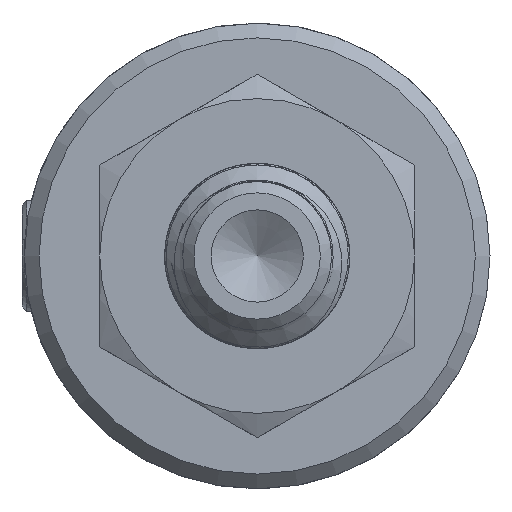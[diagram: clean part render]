
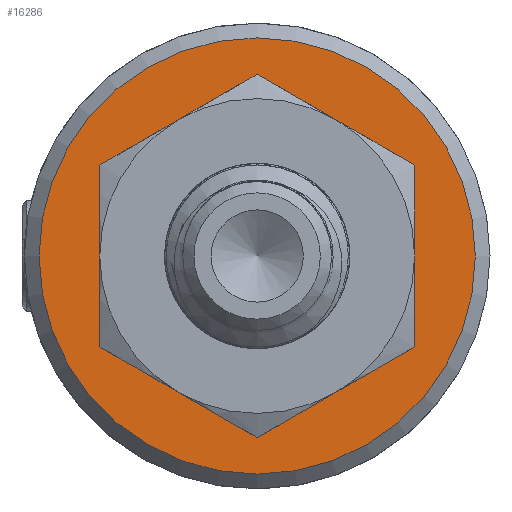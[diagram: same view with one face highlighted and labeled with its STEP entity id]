
A CAD part, left-side view. The second image highlights one B-rep face of the part: STEP entity #16286.
In plain terms, the highlighted planar face has unit normal (-1, 0, 0) as drawn and (0, 0, -1) by its records, which use the part's own axes.
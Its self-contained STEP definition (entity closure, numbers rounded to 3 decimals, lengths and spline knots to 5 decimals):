
#3941=FACE_BOUND('',#5008,.T.);
#4054=FACE_OUTER_BOUND('',#5007,.T.);
#5007=EDGE_LOOP('',(#10869));
#5008=EDGE_LOOP('',(#10870));
#6068=CIRCLE('',#17401,0.46375);
#6071=CIRCLE('',#17406,0.25135);
#6522=VERTEX_POINT('',#22014);
#6525=VERTEX_POINT('',#22024);
#8244=EDGE_CURVE('',#6522,#6522,#6068,.T.);
#8249=EDGE_CURVE('',#6525,#6525,#6071,.T.);
#10869=ORIENTED_EDGE('',*,*,#8244,.F.);
#10870=ORIENTED_EDGE('',*,*,#8249,.T.);
#15856=PLANE('',#17405);
#16286=ADVANCED_FACE('',(#4054,#3941),#15856,.F.);
#17401=AXIS2_PLACEMENT_3D('',#22015,#18580,#18581);
#17405=AXIS2_PLACEMENT_3D('',#22023,#18590,#18591);
#17406=AXIS2_PLACEMENT_3D('',#22025,#18592,#18593);
#18580=DIRECTION('center_axis',(0.,0.,1.));
#18581=DIRECTION('ref_axis',(-1.,0.,0.));
#18590=DIRECTION('center_axis',(0.,0.,1.));
#18591=DIRECTION('ref_axis',(1.,0.,0.));
#18592=DIRECTION('center_axis',(0.,0.,1.));
#18593=DIRECTION('ref_axis',(-1.,0.,0.));
#22014=CARTESIAN_POINT('',(-0.50979,0.46059,0.));
#22015=CARTESIAN_POINT('Origin',(-0.97354,0.46059,0.));
#22023=CARTESIAN_POINT('Origin',(-0.97354,0.46059,0.));
#22024=CARTESIAN_POINT('',(-0.72219,0.46059,0.));
#22025=CARTESIAN_POINT('Origin',(-0.97354,0.46059,0.));
